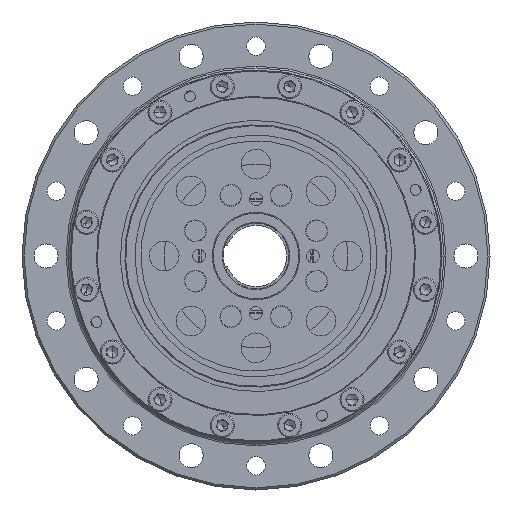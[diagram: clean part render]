
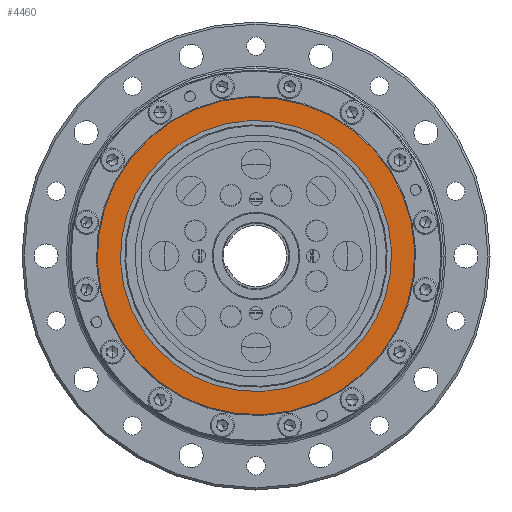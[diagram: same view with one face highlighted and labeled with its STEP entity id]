
A CAD part, left-side view. The second image highlights one B-rep face of the part: STEP entity #4460.
In plain terms, the highlighted planar face has unit normal (-1, 0, 0).
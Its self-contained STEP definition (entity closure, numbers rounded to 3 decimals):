
#1 = DIRECTION ( 'NONE',  ( -1., 0., 0. ) ) ;
#232 = CARTESIAN_POINT ( 'NONE',  ( 658.942, 0., 0. ) ) ;
#256 = DIRECTION ( 'NONE',  ( 0., 0.383, 0.924 ) ) ;
#927 = EDGE_CURVE ( 'NONE', #2422, #12277, #1881, .T. ) ;
#1089 = DIRECTION ( 'NONE',  ( -1., 0., 0. ) ) ;
#1881 = CIRCLE ( 'NONE', #4444, 36.3 ) ;
#2422 = VERTEX_POINT ( 'NONE', #15169 ) ;
#3120 = CIRCLE ( 'NONE', #9662, 36.3 ) ;
#3430 = FACE_BOUND ( 'NONE', #10757, .T. ) ;
#3541 = ORIENTED_EDGE ( 'NONE', *, *, #9138, .T. ) ;
#4018 = VERTEX_POINT ( 'NONE', #12788 ) ;
#4444 = AXIS2_PLACEMENT_3D ( 'NONE', #10823, #10878, #10952 ) ;
#4460 = ADVANCED_FACE ( 'NONE', ( #17017, #3430 ), #10289, .T. ) ;
#6762 = AXIS2_PLACEMENT_3D ( 'NONE', #12941, #1089, #11774 ) ;
#7164 = AXIS2_PLACEMENT_3D ( 'NONE', #232, #1, #256 ) ;
#7754 = CARTESIAN_POINT ( 'NONE',  ( 658.942, -13.891, -33.537 ) ) ;
#8301 = EDGE_CURVE ( 'NONE', #15564, #4018, #15217, .T. ) ;
#9138 = EDGE_CURVE ( 'NONE', #12277, #2422, #3120, .T. ) ;
#9662 = AXIS2_PLACEMENT_3D ( 'NONE', #10398, #10686, #10640 ) ;
#9906 = ORIENTED_EDGE ( 'NONE', *, *, #9984, .F. ) ;
#9984 = EDGE_CURVE ( 'NONE', #4018, #15564, #13013, .T. ) ;
#10289 = PLANE ( 'NONE',  #6762 ) ;
#10398 = CARTESIAN_POINT ( 'NONE',  ( 658.942, 0., 0. ) ) ;
#10640 = DIRECTION ( 'NONE',  ( 0., 0.383, 0.924 ) ) ;
#10686 = DIRECTION ( 'NONE',  ( -1., 0., 0. ) ) ;
#10693 = EDGE_LOOP ( 'NONE', ( #3541, #14895 ) ) ;
#10757 = EDGE_LOOP ( 'NONE', ( #14936, #9906 ) ) ;
#10823 = CARTESIAN_POINT ( 'NONE',  ( 658.942, 0., 0. ) ) ;
#10878 = DIRECTION ( 'NONE',  ( -1., 0., 0. ) ) ;
#10952 = DIRECTION ( 'NONE',  ( 0., 0.383, 0.924 ) ) ;
#11241 = AXIS2_PLACEMENT_3D ( 'NONE', #15032, #14608, #14667 ) ;
#11646 = CARTESIAN_POINT ( 'NONE',  ( 658.942, 11.863, 28.64 ) ) ;
#11774 = DIRECTION ( 'NONE',  ( 0., 0.383, 0.924 ) ) ;
#12277 = VERTEX_POINT ( 'NONE', #7754 ) ;
#12788 = CARTESIAN_POINT ( 'NONE',  ( 658.942, -11.863, -28.64 ) ) ;
#12941 = CARTESIAN_POINT ( 'NONE',  ( 658.942, 0., 0. ) ) ;
#13013 = CIRCLE ( 'NONE', #11241, 31. ) ;
#14608 = DIRECTION ( 'NONE',  ( -1., 0., 0. ) ) ;
#14667 = DIRECTION ( 'NONE',  ( 0., 0.383, 0.924 ) ) ;
#14895 = ORIENTED_EDGE ( 'NONE', *, *, #927, .T. ) ;
#14936 = ORIENTED_EDGE ( 'NONE', *, *, #8301, .F. ) ;
#15032 = CARTESIAN_POINT ( 'NONE',  ( 658.942, 0., 0. ) ) ;
#15169 = CARTESIAN_POINT ( 'NONE',  ( 658.942, 13.891, 33.537 ) ) ;
#15217 = CIRCLE ( 'NONE', #7164, 31. ) ;
#15564 = VERTEX_POINT ( 'NONE', #11646 ) ;
#17017 = FACE_OUTER_BOUND ( 'NONE', #10693, .T. ) ;
